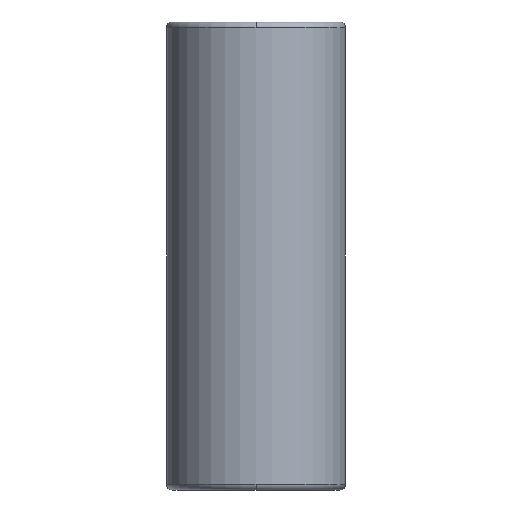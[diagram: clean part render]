
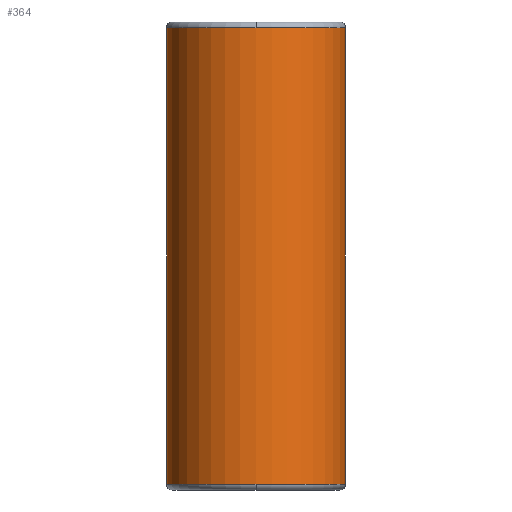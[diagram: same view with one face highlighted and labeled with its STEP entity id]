
A CAD part, front view. The second image highlights one B-rep face of the part: STEP entity #364.
In plain terms, the highlighted cylindrical face has radius 32.493 mm (diameter 64.986 mm), a partial arc.
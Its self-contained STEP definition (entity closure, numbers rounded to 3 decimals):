
#269=CARTESIAN_POINT('',(0.0,-32.493,168.0));
#270=VERTEX_POINT('',#269);
#296=CARTESIAN_POINT('',(-32.493,0.,168.0));
#297=VERTEX_POINT('',#296);
#305=CARTESIAN_POINT('',(0.0,0.,168.0));
#306=DIRECTION('',(0.0,0.0,1.0));
#307=DIRECTION('',(1.0,0.0,0.0));
#308=AXIS2_PLACEMENT_3D('',#305,#306,#307);
#309=CIRCLE('',#308,32.493);
#310=EDGE_CURVE('',#297,#270,#309,.T.);
#315=CARTESIAN_POINT('',(0.0,0.,85.0));
#316=DIRECTION('',(0.0,0.,1.0));
#317=DIRECTION('',(1.0,0.0,0.0));
#318=AXIS2_PLACEMENT_3D('',#315,#316,#317);
#319=CYLINDRICAL_SURFACE('',#318,32.493);
#320=CARTESIAN_POINT('',(32.493,0.,168.0));
#321=VERTEX_POINT('',#320);
#322=CARTESIAN_POINT('',(32.493,0.,2.));
#323=VERTEX_POINT('',#322);
#324=CARTESIAN_POINT('',(32.493,0.,168.0));
#325=DIRECTION('',(0.0,0.0,-1.0));
#326=VECTOR('',#325,166.0);
#327=LINE('',#324,#326);
#328=EDGE_CURVE('',#321,#323,#327,.T.);
#329=ORIENTED_EDGE('',*,*,#328,.F.);
#330=CARTESIAN_POINT('',(0.0,0.,168.0));
#331=DIRECTION('',(0.0,0.0,1.0));
#332=DIRECTION('',(1.0,0.0,0.0));
#333=AXIS2_PLACEMENT_3D('',#330,#331,#332);
#334=CIRCLE('',#333,32.493);
#335=EDGE_CURVE('',#270,#321,#334,.T.);
#336=ORIENTED_EDGE('',*,*,#335,.F.);
#337=ORIENTED_EDGE('',*,*,#310,.F.);
#338=CARTESIAN_POINT('',(-32.493,0.,2.));
#339=VERTEX_POINT('',#338);
#340=CARTESIAN_POINT('',(-32.493,0.,168.0));
#341=DIRECTION('',(0.0,0.0,-1.0));
#342=VECTOR('',#341,166.0);
#343=LINE('',#340,#342);
#344=EDGE_CURVE('',#297,#339,#343,.T.);
#345=ORIENTED_EDGE('',*,*,#344,.T.);
#346=CARTESIAN_POINT('',(0.0,-32.493,2.));
#347=VERTEX_POINT('',#346);
#348=CARTESIAN_POINT('',(0.0,0.,2.0));
#349=DIRECTION('',(0.0,0.0,1.0));
#350=DIRECTION('',(1.0,0.0,0.0));
#351=AXIS2_PLACEMENT_3D('',#348,#349,#350);
#352=CIRCLE('',#351,32.493);
#353=EDGE_CURVE('',#339,#347,#352,.T.);
#354=ORIENTED_EDGE('',*,*,#353,.T.);
#355=CARTESIAN_POINT('',(0.0,0.,2.0));
#356=DIRECTION('',(0.0,0.0,1.0));
#357=DIRECTION('',(1.0,0.0,0.0));
#358=AXIS2_PLACEMENT_3D('',#355,#356,#357);
#359=CIRCLE('',#358,32.493);
#360=EDGE_CURVE('',#347,#323,#359,.T.);
#361=ORIENTED_EDGE('',*,*,#360,.T.);
#362=EDGE_LOOP('',(#329,#336,#337,#345,#354,#361));
#363=FACE_OUTER_BOUND('',#362,.T.);
#364=ADVANCED_FACE('',(#363),#319,.T.);
